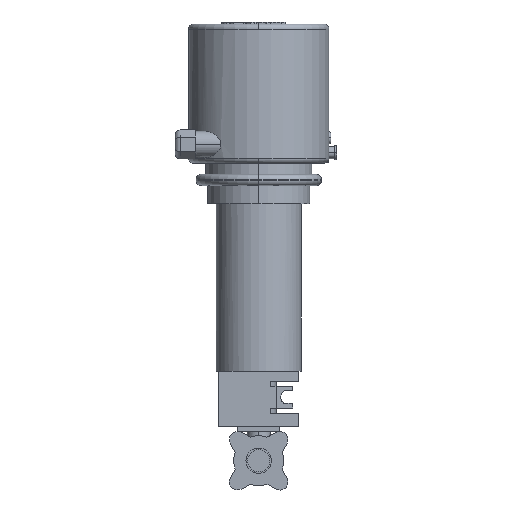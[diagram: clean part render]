
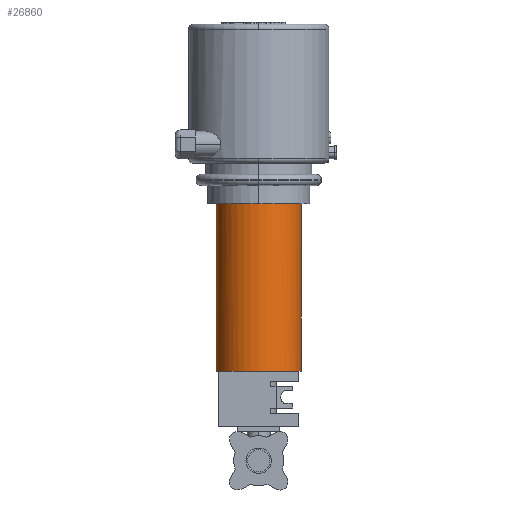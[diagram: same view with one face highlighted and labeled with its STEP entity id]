
A CAD part, left-side view. The second image highlights one B-rep face of the part: STEP entity #26860.
In plain terms, the highlighted cylindrical face has radius 42.5 mm (diameter 85 mm), a partial arc.
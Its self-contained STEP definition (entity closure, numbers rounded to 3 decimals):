
#15450=CARTESIAN_POINT('',(-2.639,-35.002,
-91.57));
#15460=VERTEX_POINT('',#15450);
#17580=CARTESIAN_POINT('',(-2.639,-91.57,
-35.002));
#17590=VERTEX_POINT('',#17580);
#24510=CARTESIAN_POINT('',(-17.,-63.286,
-63.286));
#24520=DIRECTION('',(0.,0.707,
0.707));
#24530=DIRECTION('',(0.,-0.707,
0.707));
#24540=AXIS2_PLACEMENT_3D('',#24510,#24520,#24530);
#24550=CIRCLE('',#24540,42.5);
#24560=CARTESIAN_POINT('',(23.,-53.131,
-73.441));
#24570=VERTEX_POINT('',#24560);
#24580=EDGE_CURVE('',#24570,#15460,#24550,.T.);
#24830=CARTESIAN_POINT('',(23.,-73.441,
-53.131));
#24840=VERTEX_POINT('',#24830);
#26250=EDGE_CURVE('',#17590,#24840,#24550,.T.);
#26440=CARTESIAN_POINT('',(-17.,-122.329,
-122.329));
#26450=DIRECTION('',(0.,0.707,
0.707));
#26460=DIRECTION('',(0.,-0.707,
0.707));
#26470=AXIS2_PLACEMENT_3D('',#26440,#26450,#26460);
#26480=CYLINDRICAL_SURFACE('',#26470,42.5);
#26490=ORIENTED_EDGE('',*,*,#26250,.F.);
#26500=EDGE_CURVE('',#24840,#24570,#24550,.T.);
#26510=ORIENTED_EDGE('',*,*,#26500,.F.);
#26520=ORIENTED_EDGE('',*,*,#24580,.F.);
#26530=CARTESIAN_POINT('',(-17.,-33.234,
-93.338));
#26540=VERTEX_POINT('',#26530);
#26550=EDGE_CURVE('',#15460,#26540,#24550,.T.);
#26560=ORIENTED_EDGE('',*,*,#26550,.F.);
#26570=CARTESIAN_POINT('',(-17.,-92.277,
-152.382));
#26580=DIRECTION('',(0.,0.707,
0.707));
#26590=VECTOR('',#26580,1.);
#26600=LINE('',#26570,#26590);
#26610=CARTESIAN_POINT('',(-17.,-151.321,
-211.425));
#26620=VERTEX_POINT('',#26610);
#26630=EDGE_CURVE('',#26620,#26540,#26600,.T.);
#26640=ORIENTED_EDGE('',*,*,#26630,.T.);
#26650=CARTESIAN_POINT('',(-17.,-181.373,
-181.373));
#26660=DIRECTION('',(0.,-0.707,
-0.707));
#26670=DIRECTION('',(0.,-0.707,
0.707));
#26680=AXIS2_PLACEMENT_3D('',#26650,#26660,#26670);
#26690=CIRCLE('',#26680,42.5);
#26700=CARTESIAN_POINT('',(-17.,-211.425,
-151.321));
#26710=VERTEX_POINT('',#26700);
#26720=EDGE_CURVE('',#26620,#26710,#26690,.T.);
#26730=ORIENTED_EDGE('',*,*,#26720,.F.);
#26740=CARTESIAN_POINT('',(-17.,-152.382,
-92.277));
#26750=DIRECTION('',(0.,0.707,
0.707));
#26760=VECTOR('',#26750,1.);
#26770=LINE('',#26740,#26760);
#26780=CARTESIAN_POINT('',(-17.,-93.338,
-33.234));
#26790=VERTEX_POINT('',#26780);
#26800=EDGE_CURVE('',#26710,#26790,#26770,.T.);
#26810=ORIENTED_EDGE('',*,*,#26800,.F.);
#26820=EDGE_CURVE('',#26790,#17590,#24550,.T.);
#26830=ORIENTED_EDGE('',*,*,#26820,.F.);
#26840=EDGE_LOOP('',(#26830,#26810,#26730,#26640,#26560,#26520,#26510,
#26490));
#26850=FACE_OUTER_BOUND('',#26840,.T.);
#26860=ADVANCED_FACE('',(#26850),#26480,.T.);
